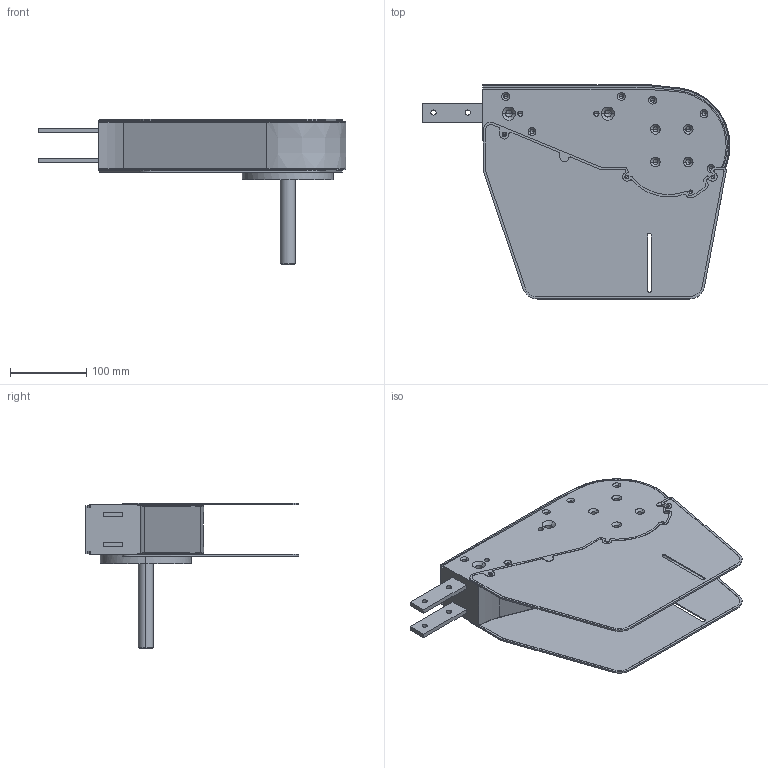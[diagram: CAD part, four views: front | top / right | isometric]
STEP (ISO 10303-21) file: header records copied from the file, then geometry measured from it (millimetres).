
FILE_DESCRIPTION (( 'STEP AP214' ), '1' );
FILE_NAME ('FSDD 65 0L.step', '2017-04-07T11:09:22', ( '' ), ( '' ), 'SwSTEP 2.0', 'SolidWorks 2016', '' );
FILE_SCHEMA (( 'AUTOMOTIVE_DESIGN' ));
Length unit declared in the file: millimetre
Products named in the file (1): FSDD 65 0L
Bounding box: 404.35 x 281.08 x 191.3 mm (x, y, z)
Volume: 2726954.6 mm3; surface area: 372966.6 mm2
Topology: 3 solids, 3 shells, 619 faces, 1647 edges, 1011 vertices
Faces by surface type: cylinder 305, plane 161, cone 140, bspline 9, torus 4
Entity records: 20632 total; most frequent: CARTESIAN_POINT 4205, DIRECTION 3442, ORIENTED_EDGE 3142, EDGE_CURVE 1571, AXIS2_PLACEMENT_3D 1298, VERTEX_POINT 1011, VECTOR 846, LINE 846
